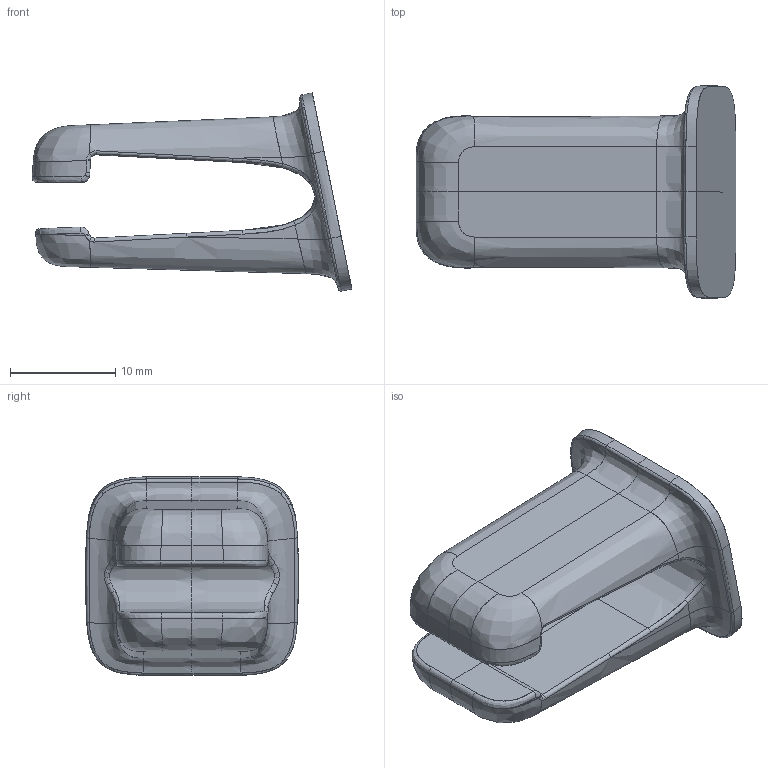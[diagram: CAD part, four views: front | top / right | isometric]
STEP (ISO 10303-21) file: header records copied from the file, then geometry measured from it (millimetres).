
FILE_DESCRIPTION(/* description */ (''),/* implementation_level */ '2;1');
FILE_NAME(/* name */ 'slate clip',/* time_stamp */ '2025-03-20T15:21:47-04:00',/* author */ (''),/* organization */ (''),/* preprocessor_version */ 'ST-DEVELOPER v20',/* originating_system */ '',/* authorisation */ '');
FILE_SCHEMA (('AUTOMOTIVE_DESIGN { 1 0 10303 214 3 1 1 }'));
Length unit declared in the file: millimetre
Bounding box: 30.3 x 20.18 x 18.8 mm (x, y, z)
Surface area: 2506.8 mm2 (no closed solid volume)
Topology: 0 solids, 142 shells, 142 faces, 670 edges, 670 vertices
Faces by surface type: bspline 142
Entity records: 13819 total; most frequent: CARTESIAN_POINT 10117, B_SPLINE_CURVE_WITH_KNOTS 670, VERTEX_POINT 670, EDGE_CURVE 670, ORIENTED_EDGE 670, STYLED_ITEM 142, FACE_OUTER_BOUND 142, EDGE_LOOP 142
